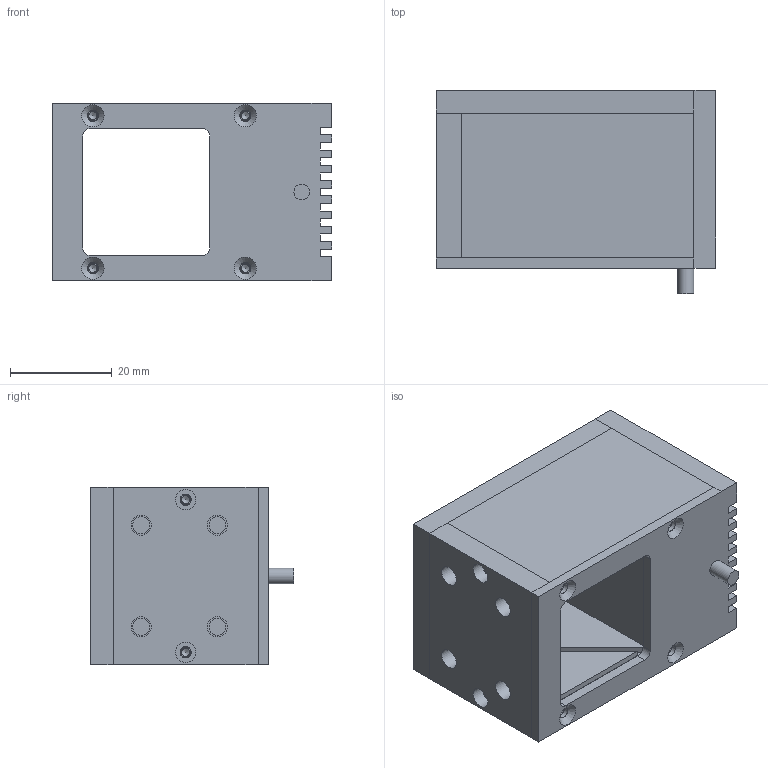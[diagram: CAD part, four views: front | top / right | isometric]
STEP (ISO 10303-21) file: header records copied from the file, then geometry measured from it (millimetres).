
FILE_DESCRIPTION(/* description */ (''),/* implementation_level */ '2;1');
FILE_NAME(/* name */ 'C:\#Vault-WorkDir\Konstruktions-Dokumente\Projekte\Zubehör allgemein\Falcon Beleuchtungen\153-00830_LK 25 R-24-KFL5-65.stp',/* time_stamp */ '2018-07-26T10:33:50+02:00',/* author */ ('SensoPart'),/* organization */ ('SensoPart'),/* preprocessor_version */ 'ST-DEVELOPER v17',/* originating_system */ 'Autodesk Inventor 2018',/* authorisation */ '');
FILE_SCHEMA (('AUTOMOTIVE_DESIGN { 1 0 10303 214 3 1 1 }'));
Length unit declared in the file: millimetre
Products named in the file (1): GH-ENG-0026221_Shrinkwrap_1
Bounding box: 55 x 40 x 35 mm (x, y, z)
Volume: 40651.2 mm3; surface area: 15891.7 mm2
Topology: 1 solids, 1 shells, 215 faces, 590 edges, 418 vertices
Faces by surface type: plane 126, cylinder 67, cone 22
Full cylindrical faces by diameter (mm): 1.6 x14, 2 x14, 2.2 x14, 3.1 x1, 3.3 x4, 4 x10
Entity records: 7027 total; most frequent: DIRECTION 1254, CARTESIAN_POINT 1214, ORIENTED_EDGE 1156, EDGE_CURVE 578, AXIS2_PLACEMENT_3D 460, VERTEX_POINT 420, LINE 334, VECTOR 334
